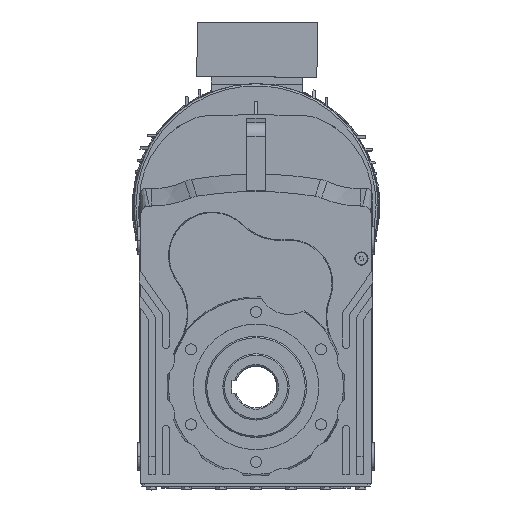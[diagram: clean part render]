
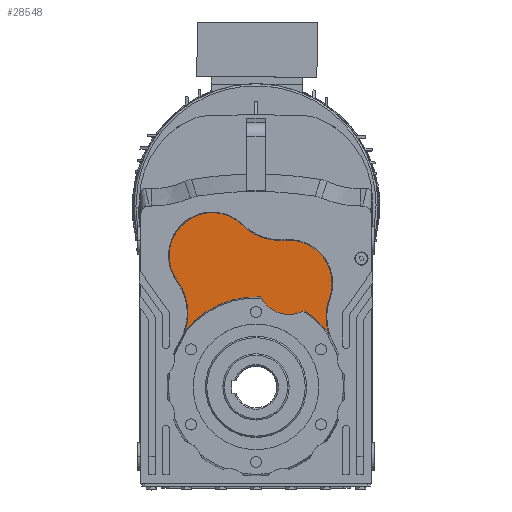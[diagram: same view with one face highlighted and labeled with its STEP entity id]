
A CAD part, top view. The second image highlights one B-rep face of the part: STEP entity #28548.
In plain terms, the highlighted planar face has unit normal (0, 0, 1).
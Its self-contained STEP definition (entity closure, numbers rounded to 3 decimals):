
#2443 = ORIENTED_EDGE ( 'NONE', *, *, #26622, .F. ) ;
#2446 = ORIENTED_EDGE ( 'NONE', *, *, #18611, .T. ) ;
#2476 = ORIENTED_EDGE ( 'NONE', *, *, #18601, .T. ) ;
#2482 = ORIENTED_EDGE ( 'NONE', *, *, #18582, .T. ) ;
#2489 = ORIENTED_EDGE ( 'NONE', *, *, #18543, .T. ) ;
#2498 = ORIENTED_EDGE ( 'NONE', *, *, #18617, .F. ) ;
#2546 = ORIENTED_EDGE ( 'NONE', *, *, #18600, .F. ) ;
#2551 = ORIENTED_EDGE ( 'NONE', *, *, #26826, .T. ) ;
#2564 = ORIENTED_EDGE ( 'NONE', *, *, #18619, .T. ) ;
#2578 = ORIENTED_EDGE ( 'NONE', *, *, #18575, .F. ) ;
#5386 = CIRCLE ( 'NONE', #5509, 61.629 ) ;
#5509 = AXIS2_PLACEMENT_3D ( 'NONE', #26357, #26429, #26446 ) ;
#5555 = AXIS2_PLACEMENT_3D ( 'NONE', #27107, #27067, #27112 ) ;
#6156 = AXIS2_PLACEMENT_3D ( 'NONE', #61693, #61662, #61672 ) ;
#6188 = AXIS2_PLACEMENT_3D ( 'NONE', #62044, #62053, #62094 ) ;
#6212 = AXIS2_PLACEMENT_3D ( 'NONE', #61890, #61947, #61952 ) ;
#6216 = AXIS2_PLACEMENT_3D ( 'NONE', #62100, #62075, #62040 ) ;
#6218 = AXIS2_PLACEMENT_3D ( 'NONE', #61970, #61987, #62027 ) ;
#6233 = AXIS2_PLACEMENT_3D ( 'NONE', #62105, #62093, #62115 ) ;
#6236 = AXIS2_PLACEMENT_3D ( 'NONE', #61859, #61832, #61803 ) ;
#6241 = AXIS2_PLACEMENT_3D ( 'NONE', #61967, #61976, #62016 ) ;
#7230 = FACE_OUTER_BOUND ( 'NONE', #19402, .T. ) ;
#12084 = CARTESIAN_POINT ( 'NONE',  ( 6.867, 128.969, 198.5 ) ) ;
#12087 = CARTESIAN_POINT ( 'NONE',  ( 105.187, 127.392, 198.5 ) ) ;
#12160 = CARTESIAN_POINT ( 'NONE',  ( 68.978, 109.189, 198.5 ) ) ;
#12205 = CARTESIAN_POINT ( 'NONE',  ( 104.136, 76.392, 198.5 ) ) ;
#12243 = CARTESIAN_POINT ( 'NONE',  ( -19.706, 232.108, 198.5 ) ) ;
#12247 = CARTESIAN_POINT ( 'NONE',  ( -101.917, 79.328, 198.5 ) ) ;
#12883 = CARTESIAN_POINT ( 'NONE',  ( -62.819, 249.699, 198.5 ) ) ;
#12921 = CARTESIAN_POINT ( 'NONE',  ( -112.562, 151.686, 198.5 ) ) ;
#12957 = CARTESIAN_POINT ( 'NONE',  ( 35.119, 209.739, 198.5 ) ) ;
#13043 = CARTESIAN_POINT ( 'NONE',  ( 41.959, 210.038, 198.5 ) ) ;
#17362 = CARTESIAN_POINT ( 'NONE',  ( 41.229, 218.377, 198.5 ) ) ;
#17390 = DIRECTION ( 'NONE',  ( 1., 0., 0. ) ) ;
#17422 = PLANE ( 'NONE',  #22125 ) ;
#17467 = DIRECTION ( 'NONE',  ( 0., 0., 1. ) ) ;
#18543 = EDGE_CURVE ( 'NONE', #35339, #35430, #60181, .T. ) ;
#18575 = EDGE_CURVE ( 'NONE', #35339, #35528, #60201, .T. ) ;
#18582 = EDGE_CURVE ( 'NONE', #37635, #35528, #60240, .T. ) ;
#18600 = EDGE_CURVE ( 'NONE', #37757, #35342, #60287, .T. ) ;
#18601 = EDGE_CURVE ( 'NONE', #37636, #35508, #60317, .T. ) ;
#18611 = EDGE_CURVE ( 'NONE', #35474, #35342, #60289, .T. ) ;
#18617 = EDGE_CURVE ( 'NONE', #37676, #35508, #60265, .T. ) ;
#18619 = EDGE_CURVE ( 'NONE', #35430, #35474, #60281, .T. ) ;
#19402 = EDGE_LOOP ( 'NONE', ( #2482, #2578, #2489, #2564, #2446, #2546, #2551, #2476, #2498, #2443 ) ) ;
#22125 = AXIS2_PLACEMENT_3D ( 'NONE', #17362, #17467, #17390 ) ;
#24691 = CIRCLE ( 'NONE', #5555, 78.371 ) ;
#26357 = CARTESIAN_POINT ( 'NONE',  ( -62.819, 188.07, 198.5 ) ) ;
#26429 = DIRECTION ( 'NONE',  ( 0., 0., -1. ) ) ;
#26446 = DIRECTION ( 'NONE',  ( 0., 1., 0. ) ) ;
#26622 = EDGE_CURVE ( 'NONE', #37635, #37676, #5386, .T. ) ;
#26826 = EDGE_CURVE ( 'NONE', #37757, #37636, #24691, .T. ) ;
#27067 = DIRECTION ( 'NONE',  ( 0., 0., -1. ) ) ;
#27107 = CARTESIAN_POINT ( 'NONE',  ( 35.119, 288.11, 198.5 ) ) ;
#27112 = DIRECTION ( 'NONE',  ( 0., -1., 0. ) ) ;
#28548 = ADVANCED_FACE ( 'NONE', ( #7230 ), #17422, .T. ) ;
#35339 = VERTEX_POINT ( 'NONE', #12084 ) ;
#35342 = VERTEX_POINT ( 'NONE', #12087 ) ;
#35430 = VERTEX_POINT ( 'NONE', #12160 ) ;
#35474 = VERTEX_POINT ( 'NONE', #12205 ) ;
#35508 = VERTEX_POINT ( 'NONE', #12243 ) ;
#35528 = VERTEX_POINT ( 'NONE', #12247 ) ;
#37635 = VERTEX_POINT ( 'NONE', #12921 ) ;
#37636 = VERTEX_POINT ( 'NONE', #12957 ) ;
#37676 = VERTEX_POINT ( 'NONE', #12883 ) ;
#37757 = VERTEX_POINT ( 'NONE', #13043 ) ;
#60181 = CIRCLE ( 'NONE', #6156, 45. ) ;
#60201 = CIRCLE ( 'NONE', #6236, 129.152 ) ;
#60240 = CIRCLE ( 'NONE', #6212, 78.371 ) ;
#60265 = CIRCLE ( 'NONE', #6233, 61.629 ) ;
#60281 = CIRCLE ( 'NONE', #6216, 129.152 ) ;
#60287 = CIRCLE ( 'NONE', #6241, 61.629 ) ;
#60289 = CIRCLE ( 'NONE', #6188, 78.371 ) ;
#60317 = CIRCLE ( 'NONE', #6218, 78.371 ) ;
#61662 = DIRECTION ( 'NONE',  ( 0., 0., 1. ) ) ;
#61672 = DIRECTION ( 'NONE',  ( -1., 0., 0. ) ) ;
#61693 = CARTESIAN_POINT ( 'NONE',  ( 47.338, 148.644, 198.5 ) ) ;
#61803 = DIRECTION ( 'NONE',  ( -1., 0., 0. ) ) ;
#61832 = DIRECTION ( 'NONE',  ( 0., 0., 1. ) ) ;
#61859 = CARTESIAN_POINT ( 'NONE',  ( 0., 0., 198.5 ) ) ;
#61890 = CARTESIAN_POINT ( 'NONE',  ( -175.818, 105.418, 198.5 ) ) ;
#61947 = DIRECTION ( 'NONE',  ( 0., 0., -1. ) ) ;
#61952 = DIRECTION ( 'NONE',  ( 0., -1., 0. ) ) ;
#61967 = CARTESIAN_POINT ( 'NONE',  ( 47.338, 148.644, 198.5 ) ) ;
#61970 = CARTESIAN_POINT ( 'NONE',  ( 35.119, 288.11, 198.5 ) ) ;
#61976 = DIRECTION ( 'NONE',  ( 0., 0., -1. ) ) ;
#61987 = DIRECTION ( 'NONE',  ( 0., 0., -1. ) ) ;
#62016 = DIRECTION ( 'NONE',  ( -1., 0., 0. ) ) ;
#62027 = DIRECTION ( 'NONE',  ( 0., -1., 0. ) ) ;
#62040 = DIRECTION ( 'NONE',  ( -1., 0., 0. ) ) ;
#62044 = CARTESIAN_POINT ( 'NONE',  ( 178.75, 100.366, 198.5 ) ) ;
#62053 = DIRECTION ( 'NONE',  ( 0., 0., -1. ) ) ;
#62075 = DIRECTION ( 'NONE',  ( 0., 0., -1. ) ) ;
#62093 = DIRECTION ( 'NONE',  ( 0., 0., -1. ) ) ;
#62094 = DIRECTION ( 'NONE',  ( 0., -1., 0. ) ) ;
#62100 = CARTESIAN_POINT ( 'NONE',  ( 0., 0., 198.5 ) ) ;
#62105 = CARTESIAN_POINT ( 'NONE',  ( -62.819, 188.07, 198.5 ) ) ;
#62115 = DIRECTION ( 'NONE',  ( 0., 1., 0. ) ) ;
